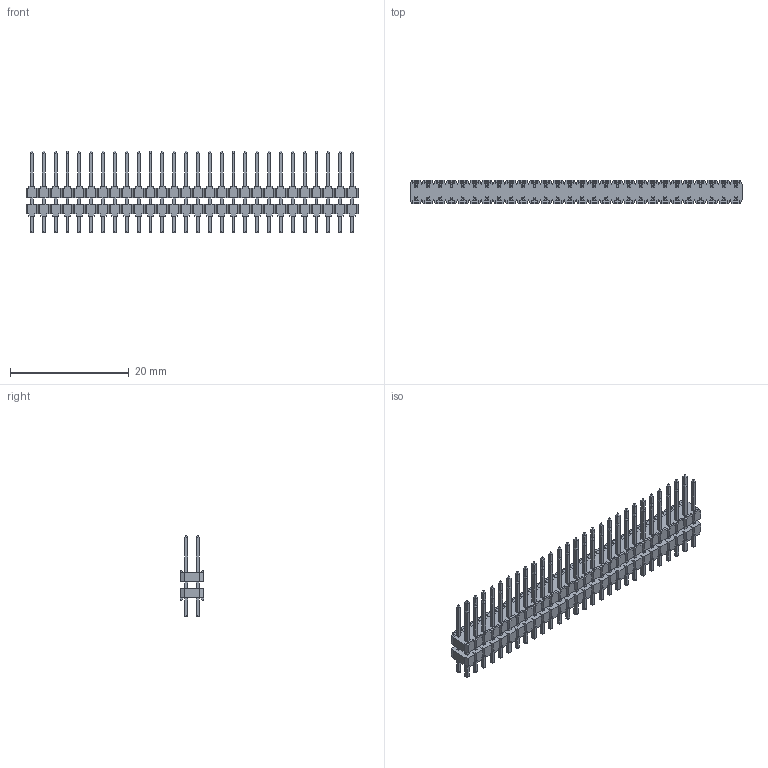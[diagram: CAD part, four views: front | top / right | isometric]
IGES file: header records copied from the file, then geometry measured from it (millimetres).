
Global section: file name: N:\GOLF_VI_2mm_UGII\9514XX_806XX06_AR\951456-8061106-AR.igs; native system: NX V3.0; preprocessor: UGS NX IGES V4.0; date: 20070314.102611; units: millimetre
Bounding box: 56 x 4 x 13.8 mm (x, y, z)
Surface area: 2637.8 mm2 (no closed solid volume)
Topology: 0 solids, 0 shells, 2024 faces, 10553 edges, 10553 vertices
Faces by surface type: bspline 2024
